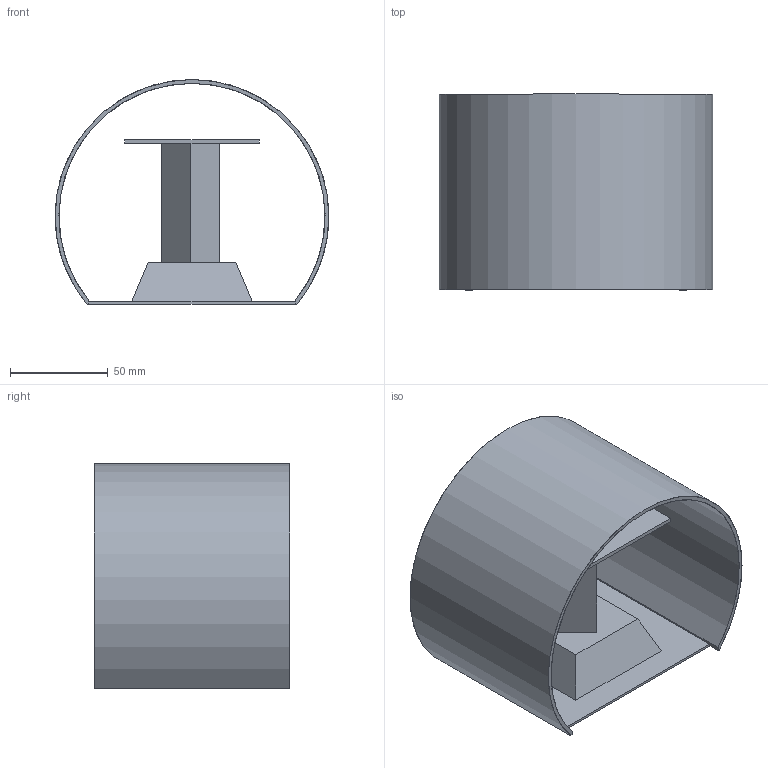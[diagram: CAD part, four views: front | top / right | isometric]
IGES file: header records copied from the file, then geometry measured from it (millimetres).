
Start section: SolidWorks IGES file using analytic representation for surfaces
Global section: file name: C:\Users\danielet\Desktop\3Ds\KOWA-A2033-3D\KOWA-A2033-3D.IGS; native system: SolidWorks 2018; preprocessor: SolidWorks 2018; author: danielet; date: 210802.080249; units: millimetre
Bounding box: 140 x 100 x 115 mm (x, y, z)
Surface area: 100012.8 mm2 (no closed solid volume)
Topology: 0 solids, 0 shells, 25 faces, 256 edges, 256 vertices
Faces by surface type: bspline 23, revolution 2
